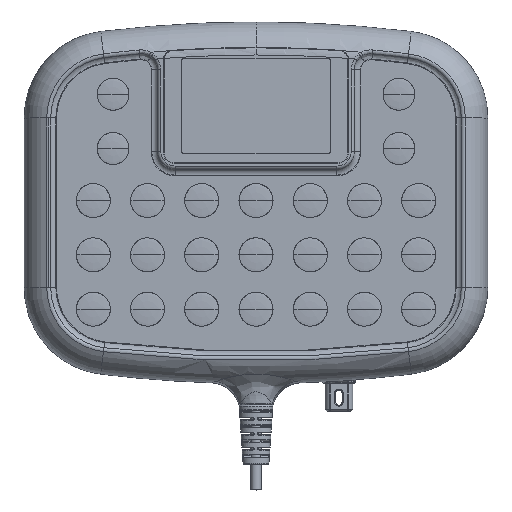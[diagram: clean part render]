
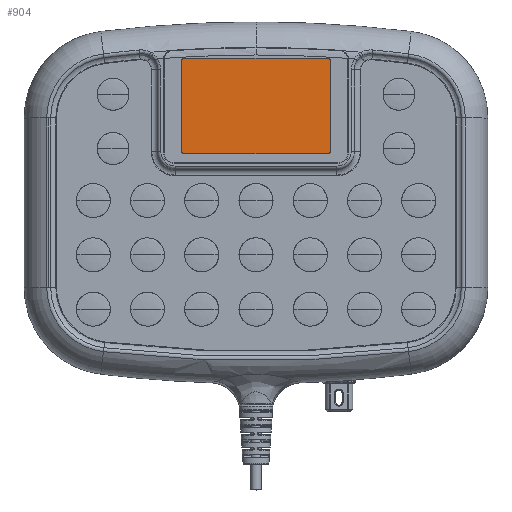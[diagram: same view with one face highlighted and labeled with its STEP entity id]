
A CAD part, top view. The second image highlights one B-rep face of the part: STEP entity #904.
In plain terms, the highlighted planar face has unit normal (0, 0, 1).
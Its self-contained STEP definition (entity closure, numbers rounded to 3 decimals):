
#904 = ADVANCED_FACE ( 'NONE', ( #63423 ), #29875, .T. ) ;
#23626 = CARTESIAN_POINT ( 'NONE',  ( 33.5, 66.5, 17.5 ) ) ;
#23629 = DIRECTION ( 'NONE',  ( 0., 0., 1. ) ) ;
#23630 = DIRECTION ( 'NONE',  ( 1., 0., 0. ) ) ;
#23783 = CARTESIAN_POINT ( 'NONE',  ( -33.5, 24.5, 17.5 ) ) ;
#23785 = DIRECTION ( 'NONE',  ( 0., 0., 1. ) ) ;
#23786 = DIRECTION ( 'NONE',  ( 1., 0., 0. ) ) ;
#24714 = CIRCLE ( 'NONE', #69523, 1.5 ) ;
#24731 = LINE ( 'NONE', #56676, #24736 ) ;
#24736 = VECTOR ( 'NONE', #56713, 1000. ) ;
#24748 = VECTOR ( 'NONE', #56844, 1000. ) ;
#24766 = VECTOR ( 'NONE', #56839, 1000. ) ;
#24776 = LINE ( 'NONE', #56783, #24766 ) ;
#24782 = LINE ( 'NONE', #56840, #24748 ) ;
#24939 = LINE ( 'NONE', #59896, #24941 ) ;
#24941 = VECTOR ( 'NONE', #59897, 1000. ) ;
#24975 = CIRCLE ( 'NONE', #69562, 1.5 ) ;
#25794 = EDGE_LOOP ( 'NONE', ( #62512, #62514, #62517, #62519, #62521, #62523, #62525, #62528 ) ) ;
#29870 = CARTESIAN_POINT ( 'NONE',  ( -35., 23., 17.5 ) ) ;
#29875 = PLANE ( 'NONE',  #69142 ) ;
#29880 = DIRECTION ( 'NONE',  ( 0., 0., 1. ) ) ;
#29881 = DIRECTION ( 'NONE',  ( 1., 0., 0. ) ) ;
#48892 = CIRCLE ( 'NONE', #52069, 1.5 ) ;
#48902 = EDGE_CURVE ( 'NONE', #70850, #70652, #24714, .T. ) ;
#48929 = CIRCLE ( 'NONE', #52071, 1.5 ) ;
#49016 = EDGE_CURVE ( 'NONE', #70620, #70503, #24731, .T. ) ;
#49245 = EDGE_CURVE ( 'NONE', #70634, #70892, #24776, .T. ) ;
#49252 = EDGE_CURVE ( 'NONE', #70652, #70622, #24782, .T. ) ;
#52069 = AXIS2_PLACEMENT_3D ( 'NONE', #23626, #23629, #23630 ) ;
#52071 = AXIS2_PLACEMENT_3D ( 'NONE', #23783, #23785, #23786 ) ;
#52313 = EDGE_CURVE ( 'NONE', #70846, #70850, #24939, .T. ) ;
#52324 = EDGE_CURVE ( 'NONE', #70503, #70634, #24975, .T. ) ;
#53475 = EDGE_CURVE ( 'NONE', #70622, #70620, #48892, .T. ) ;
#56499 = CARTESIAN_POINT ( 'NONE',  ( 33.5, 24.5, 17.5 ) ) ;
#56528 = DIRECTION ( 'NONE',  ( 0., 0., 1. ) ) ;
#56530 = DIRECTION ( 'NONE',  ( 1., 0., 0. ) ) ;
#56676 = CARTESIAN_POINT ( 'NONE',  ( -35., 68., 17.5 ) ) ;
#56713 = DIRECTION ( 'NONE',  ( -1., 0., 0. ) ) ;
#56783 = CARTESIAN_POINT ( 'NONE',  ( -35., 68., 17.5 ) ) ;
#56839 = DIRECTION ( 'NONE',  ( 0., -1., 0. ) ) ;
#56840 = CARTESIAN_POINT ( 'NONE',  ( 35., 68., 17.5 ) ) ;
#56844 = DIRECTION ( 'NONE',  ( 0., 1., 0. ) ) ;
#56853 = EDGE_CURVE ( 'NONE', #70892, #70846, #48929, .T. ) ;
#59896 = CARTESIAN_POINT ( 'NONE',  ( -35., 23., 17.5 ) ) ;
#59897 = DIRECTION ( 'NONE',  ( 1., 0., 0. ) ) ;
#59944 = CARTESIAN_POINT ( 'NONE',  ( -33.5, 66.5, 17.5 ) ) ;
#59947 = DIRECTION ( 'NONE',  ( 0., 0., 1. ) ) ;
#59948 = DIRECTION ( 'NONE',  ( 1., 0., 0. ) ) ;
#62512 = ORIENTED_EDGE ( 'NONE', *, *, #49245, .T. ) ;
#62514 = ORIENTED_EDGE ( 'NONE', *, *, #56853, .T. ) ;
#62517 = ORIENTED_EDGE ( 'NONE', *, *, #52313, .T. ) ;
#62519 = ORIENTED_EDGE ( 'NONE', *, *, #48902, .T. ) ;
#62521 = ORIENTED_EDGE ( 'NONE', *, *, #49252, .T. ) ;
#62523 = ORIENTED_EDGE ( 'NONE', *, *, #53475, .T. ) ;
#62525 = ORIENTED_EDGE ( 'NONE', *, *, #49016, .T. ) ;
#62528 = ORIENTED_EDGE ( 'NONE', *, *, #52324, .T. ) ;
#63423 = FACE_OUTER_BOUND ( 'NONE', #25794, .T. ) ;
#69142 = AXIS2_PLACEMENT_3D ( 'NONE', #29870, #29880, #29881 ) ;
#69523 = AXIS2_PLACEMENT_3D ( 'NONE', #56499, #56528, #56530 ) ;
#69562 = AXIS2_PLACEMENT_3D ( 'NONE', #59944, #59947, #59948 ) ;
#70503 = VERTEX_POINT ( 'NONE', #74937 ) ;
#70620 = VERTEX_POINT ( 'NONE', #74994 ) ;
#70622 = VERTEX_POINT ( 'NONE', #74995 ) ;
#70634 = VERTEX_POINT ( 'NONE', #75002 ) ;
#70652 = VERTEX_POINT ( 'NONE', #75012 ) ;
#70846 = VERTEX_POINT ( 'NONE', #75117 ) ;
#70850 = VERTEX_POINT ( 'NONE', #75119 ) ;
#70892 = VERTEX_POINT ( 'NONE', #75140 ) ;
#74937 = CARTESIAN_POINT ( 'NONE',  ( -33.5, 68., 17.5 ) ) ;
#74994 = CARTESIAN_POINT ( 'NONE',  ( 33.5, 68., 17.5 ) ) ;
#74995 = CARTESIAN_POINT ( 'NONE',  ( 35., 66.5, 17.5 ) ) ;
#75002 = CARTESIAN_POINT ( 'NONE',  ( -35., 66.5, 17.5 ) ) ;
#75012 = CARTESIAN_POINT ( 'NONE',  ( 35., 24.5, 17.5 ) ) ;
#75117 = CARTESIAN_POINT ( 'NONE',  ( -33.5, 23., 17.5 ) ) ;
#75119 = CARTESIAN_POINT ( 'NONE',  ( 33.5, 23., 17.5 ) ) ;
#75140 = CARTESIAN_POINT ( 'NONE',  ( -35., 24.5, 17.5 ) ) ;
